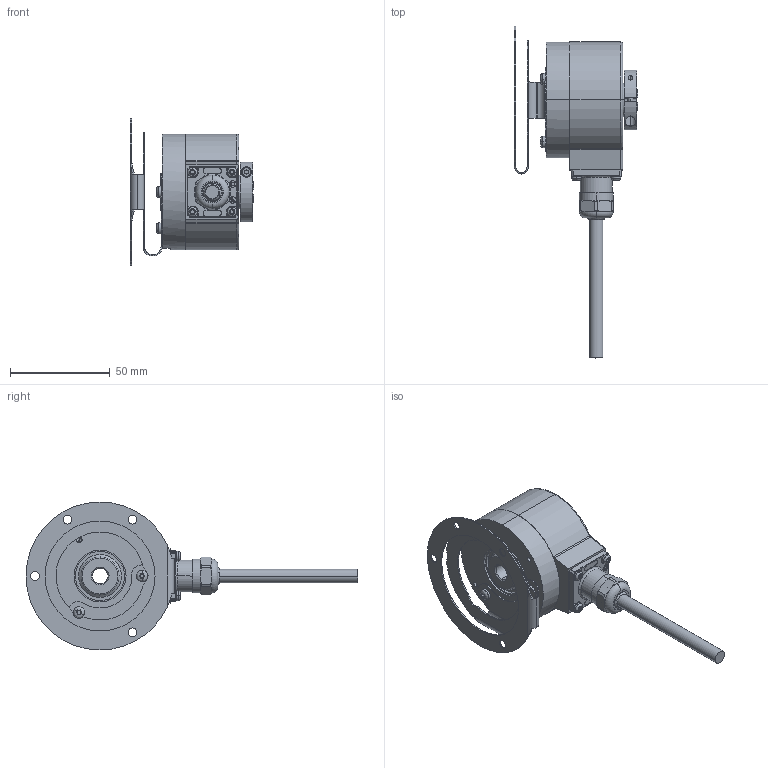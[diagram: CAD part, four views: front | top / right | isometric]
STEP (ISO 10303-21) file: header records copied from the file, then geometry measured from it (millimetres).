
FILE_DESCRIPTION (( 'STEP AP203' ), '1' );
FILE_NAME ('K58I.OXX.XXXXX.XC13508.6XR11.XXXX.step', '2025-12-08T11:34:16', ( '' ), ( '' ), 'SwSTEP 2.0', 'SolidWorks 2021', '' );
FILE_SCHEMA (( 'CONFIG_CONTROL_DESIGN' ));
Length unit declared in the file: millimetre
Products named in the file (1): K58I.OXX.XXXXX.XC13508.6XR11.XXXX
Bounding box: 61.59 x 166 x 74 mm (x, y, z)
Volume: 119079.7 mm3; surface area: 44983 mm2
Topology: 10 solids, 10 shells, 725 faces, 1868 edges, 1181 vertices
Faces by surface type: cylinder 372, plane 185, cone 68, bspline 44, torus 40, sphere 16
Entity records: 24775 total; most frequent: CARTESIAN_POINT 6997, DIRECTION 3824, ORIENTED_EDGE 3708, EDGE_CURVE 1854, AXIS2_PLACEMENT_3D 1520, VERTEX_POINT 1181, CIRCLE 838, EDGE_LOOP 791
